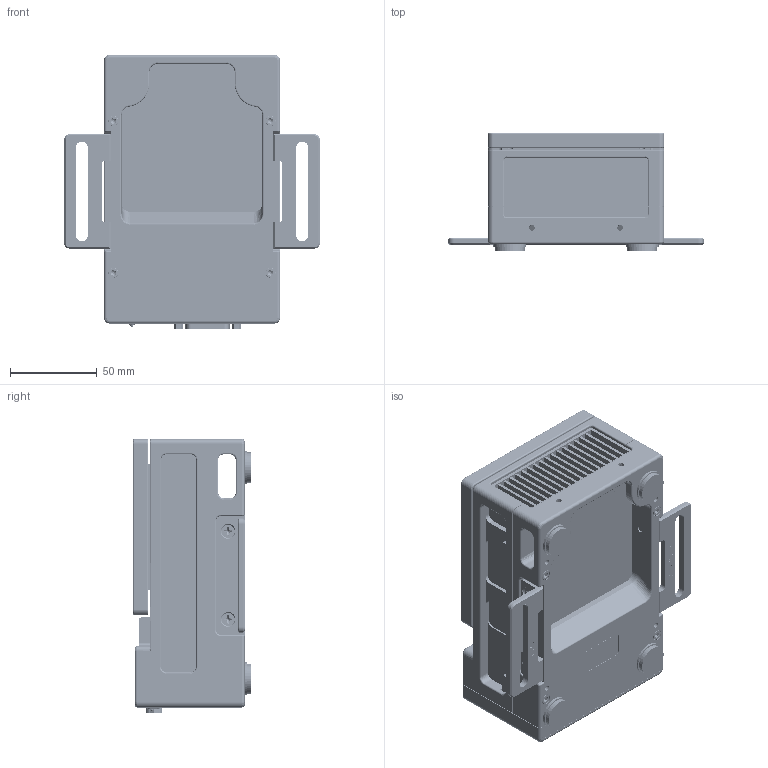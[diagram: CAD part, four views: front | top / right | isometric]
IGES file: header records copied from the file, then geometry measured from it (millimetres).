
Start section: SolidWorks IGES file using analytic representation for surfaces
Global section: file name: C:\Users\mrhan\Dropbox\Mechanical Engr\Development Projects (P)\285 TECMount\Customer Model Development\Step 7 - 285 TLA.IGS; native system: SolidWorks 2018; preprocessor: SolidWorks 2018; author: mrhan; date: 200120.212249; units: inch
Bounding box: 147.32 x 68.07 x 158.18 mm (x, y, z)
Surface area: 134526.4 mm2 (no closed solid volume)
Topology: 0 solids, 0 shells, 3439 faces, 37347 edges, 37211 vertices
Faces by surface type: bspline 2478, revolution 961
